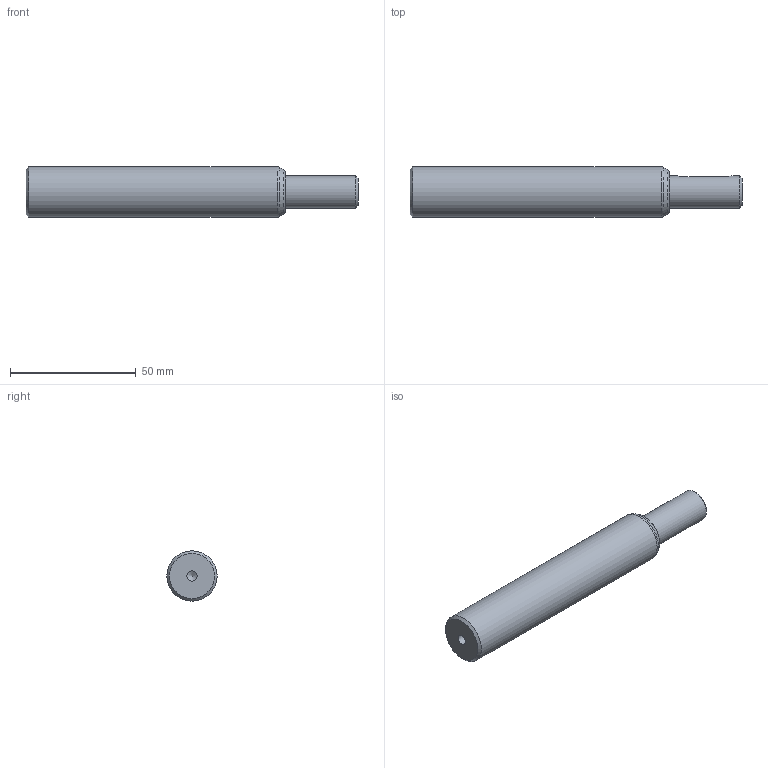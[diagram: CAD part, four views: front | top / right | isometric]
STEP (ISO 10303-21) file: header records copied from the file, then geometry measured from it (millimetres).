
FILE_DESCRIPTION(/* description */ (''),/* implementation_level */ '2;1');
FILE_NAME(/* name */ '',/* time_stamp */ '2024-09-10T16:17:52+09:00',/* author */ ('jhkim'),/* organization */ (''),/* preprocessor_version */ 'ST-DEVELOPER v20',/* originating_system */ 'Autodesk Inventor 2025',/* authorisation */ '');
FILE_SCHEMA (('AUTOMOTIVE_DESIGN { 1 0 10303 214 3 1 1 }'));
Length unit declared in the file: millimetre
Products named in the file (1): 축
Bounding box: 132 x 20 x 20 mm (x, y, z)
Volume: 35384.1 mm3; surface area: 8572.2 mm2
Topology: 1 solids, 1 shells, 20 faces, 46 edges, 30 vertices
Faces by surface type: cone 6, cylinder 6, plane 6, torus 2
Full cylindrical faces by diameter (mm): 4.134 x2, 13 x1, 20 x1
Entity records: 637 total; most frequent: CARTESIAN_POINT 131, DIRECTION 104, ORIENTED_EDGE 88, EDGE_CURVE 44, AXIS2_PLACEMENT_3D 43, VERTEX_POINT 30, EDGE_LOOP 24, CIRCLE 22
